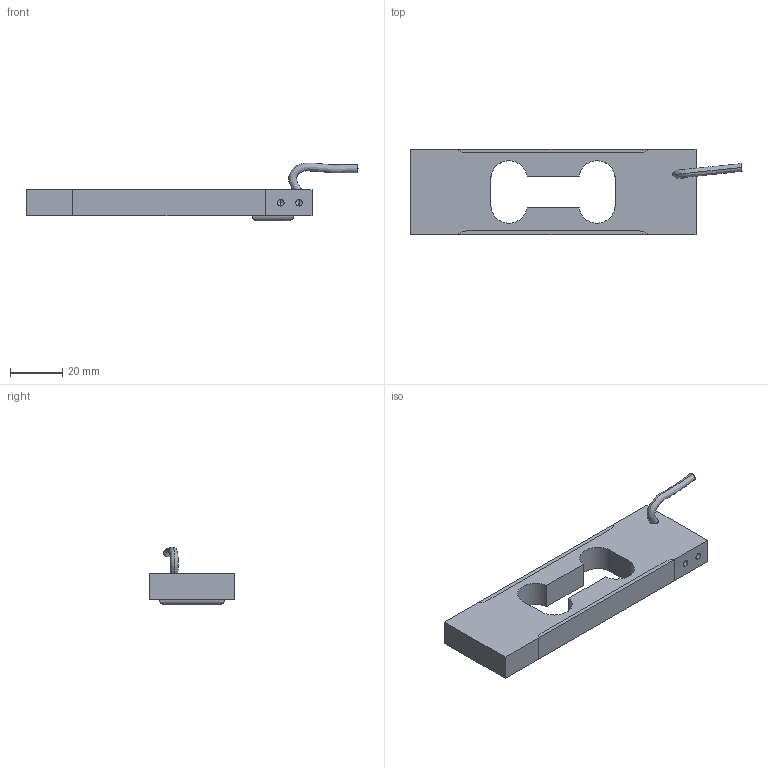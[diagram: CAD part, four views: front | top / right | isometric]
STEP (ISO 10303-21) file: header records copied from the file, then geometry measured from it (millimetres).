
FILE_DESCRIPTION (( 'STEP AP203' ), '1' );
FILE_NAME ('PA3-Low capacity seriesl.STEP', '2018-05-24T11:11:40', ( '' ), ( '' ), 'SwSTEP 2.0', 'SolidWorks 2017', '' );
FILE_SCHEMA (( 'CONFIG_CONTROL_DESIGN' ));
Length unit declared in the file: millimetre
Products named in the file (4): Part1; PA3-Low capacity seriesl; model; 0082669
Assembly tree (3 placements, depth 2):
  PA3-Low capacity seriesl
    model
    0082669
    Part1
Bounding box: 127.69 x 33 x 22.28 mm (x, y, z)
Volume: 28752.6 mm3; surface area: 14643.4 mm2
Topology: 5 solids, 5 shells, 64 faces, 154 edges, 96 vertices
Faces by surface type: cylinder 28, plane 26, cone 8, bspline 2
Entity records: 2606 total; most frequent: CARTESIAN_POINT 726, DIRECTION 320, ORIENTED_EDGE 292, EDGE_CURVE 146, AXIS2_PLACEMENT_3D 116, VERTEX_POINT 96, LINE 88, VECTOR 88
